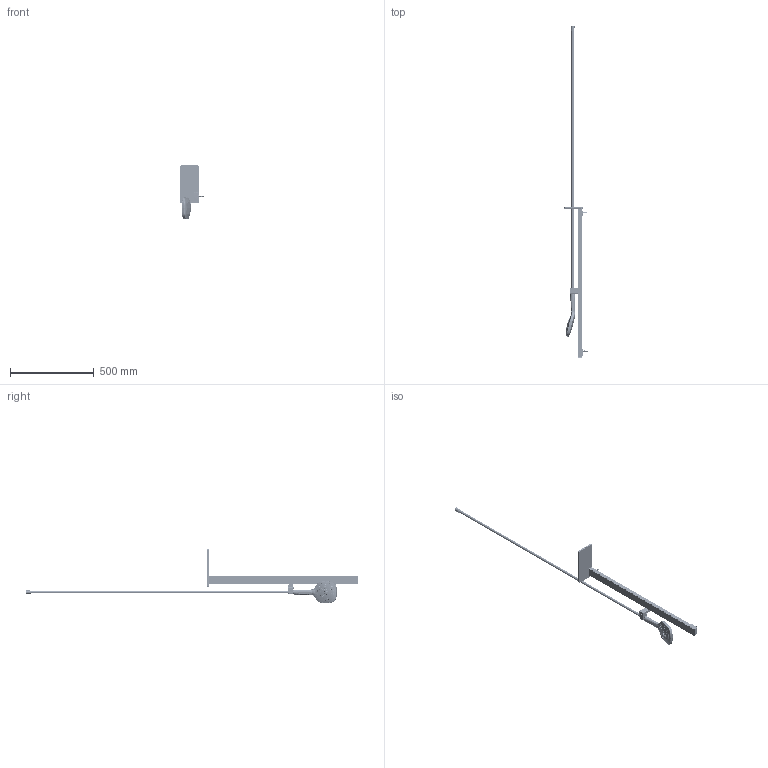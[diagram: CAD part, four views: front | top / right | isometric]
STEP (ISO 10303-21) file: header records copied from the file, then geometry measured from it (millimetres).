
FILE_DESCRIPTION(/* description */ (''),/* implementation_level */ '2;1');
FILE_NAME(/* name */ '3D_TVS11000200061_ShowerSetWithShelf_SHELL_stptestakiujshdikjahd o iazhdiuonhbaöod.stp',/* time_stamp */ '2023-09-12T14:07:05+02:00',/* author */ (''),/* organization */ (''),/* preprocessor_version */ 'ST-DEVELOPER v18.1',/* originating_system */ 'SIEMENS PLM Software NX 1973',/* authorisation */ '');
FILE_SCHEMA (('AUTOMOTIVE_DESIGN { 1 0 10303 214 3 1 1 1 }'));
Products named in the file (36): H21085-101; H21235-401; T40007-000; P82800-010; P96000-008; P96000-002; P96000-001; M51980-018; M51980-019; B36370-005; M51980-014; M51980-013; M51980-012; M51980-007; M51980-011; M51980-027; M51980-022-01; P42300-025; 30100036; M51230-022; 30100227; M50020-091; M51980-005; M51980-004; M51980-022; M51980-024; M51980-020; M51980-021; M51980-023; M51980-002; M51980-001; H21235_ASM; P96000_ASM; M51980-006_ASM; M51980-025_ASM; 3D_TVS11000200061_ShowerSetWithShelf_SHELL_stp
Assembly tree (49 placements, depth 3):
  3D_TVS11000200061_ShowerSetWithShelf_SHELL_stp
    M51980-001
    M51980-002
    M51980-023
    M51980-021
    M51980-020
    M51980-024
    M51980-022  x2
    M51980-025_ASM
      M51980-027  x2
    M51980-004
    M51980-005
    M50020-091  x2
    30100227  x4
    M51230-022  x2
    M51980-006_ASM
      M51980-011
      M51980-007
      M51980-012
      M51980-013
      M51980-014  x2
      B36370-005  x2
      M51980-019  x2
      30100227  x2
      M51980-018
    30100036
    P42300-025  x2
    M51980-022-01
    P96000_ASM
      P96000-001
      P96000-002
      P96000-008
      P82800-010
      T40007-000
    H21235_ASM
      H21235-401
      H21085-101  x2
Bounding box: 139.92 x 1980.05 x 323.12 mm (x, y, z)
Volume: 991509.5 mm3; surface area: 900572.6 mm2
Topology: 50 solids, 50 shells, 10250 faces, 25798 edges, 16026 vertices
Faces by surface type: plane 3254, cylinder 2873, cone 2023, bspline 1164, torus 496, extrusion 187, sphere 182, revolution 71
Entity records: 521496 total; most frequent: CARTESIAN_POINT 303336, ORIENTED_EDGE 47346, DIRECTION 41412, EDGE_CURVE 23673, AXIS2_PLACEMENT_3D 15568, VERTEX_POINT 14758, EDGE_LOOP 10279, VECTOR 10209
